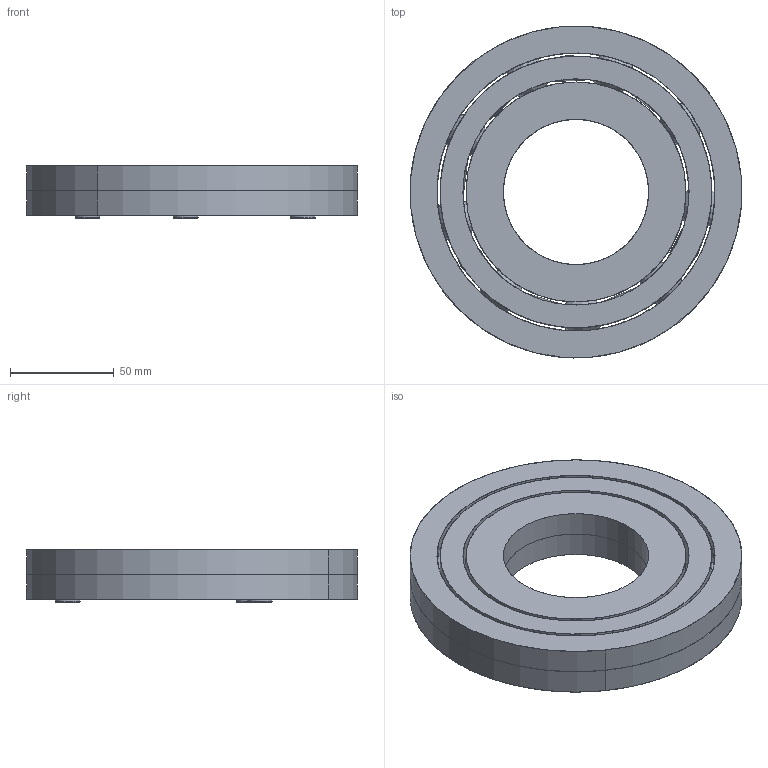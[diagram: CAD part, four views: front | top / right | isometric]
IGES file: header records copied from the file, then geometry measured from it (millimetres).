
Start section: SolidWorks IGES file using analytic representation for surfaces
Global section: file name: C:\Documents and Settings\EtienneBernot\Mes documents\DOSSIERS A4\CD4 BE MECA 08 2007- V2\BE Roulement\BE ROUL 3D\Essais animation\Roulement 70 x 160 Billes D20.IGS; native system: SolidWorks 2005 by SolidWorks Corporation; preprocessor: SolidWorks 2005 by SolidWorks Corporation; author: EtienneBernot; date: 090702.123205; units: millimetre
Bounding box: 159.98 x 159.98 x 25.3 mm (x, y, z)
Surface area: 141185.5 mm2 (no closed solid volume)
Topology: 0 solids, 0 shells, 1890 faces, 20128 edges, 19994 vertices
Faces by surface type: bspline 1317, revolution 573
